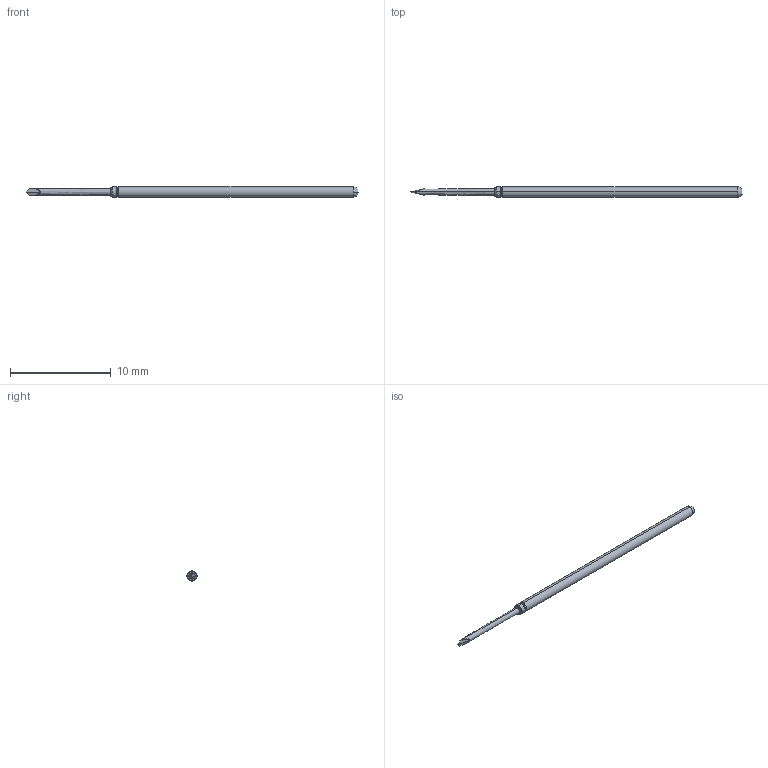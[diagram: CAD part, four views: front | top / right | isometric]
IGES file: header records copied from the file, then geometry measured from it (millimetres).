
Start section: SolidWorks IGES file using analytic representation for surfaces
Global section: file name: Z:\probe solid model mockups\Solidworks models\Parts\LFRE-1I.IGS; native system: SolidWorks 2016; preprocessor: SolidWorks 2016; author: mlee; date: 180927.163218; units: inch
Bounding box: 33.02 x 1.02 x 1.02 mm (x, y, z)
Surface area: 94.6 mm2 (no closed solid volume)
Topology: 0 solids, 0 shells, 22 faces, 158 edges, 158 vertices
Faces by surface type: revolution 12, bspline 10
